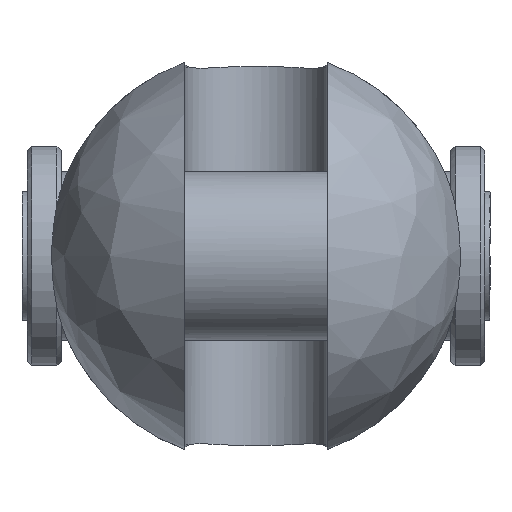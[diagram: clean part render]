
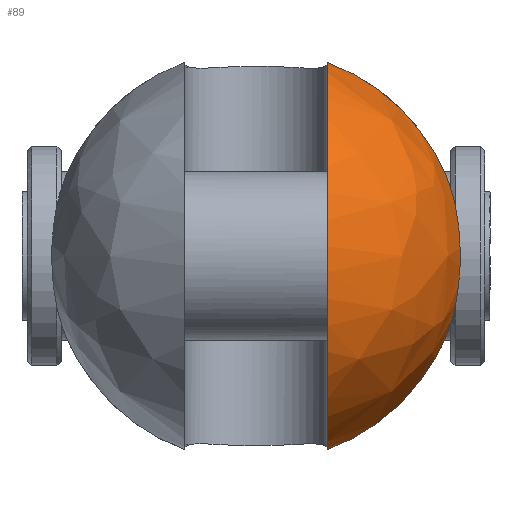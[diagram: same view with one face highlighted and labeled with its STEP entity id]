
A CAD part, left-side view. The second image highlights one B-rep face of the part: STEP entity #89.
In plain terms, the highlighted free-form (B-spline) face has degree [2, 2] with [9, 5] control points.
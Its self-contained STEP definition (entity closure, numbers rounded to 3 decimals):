
#89=ADVANCED_FACE('',(#164),#1306,.T.);
#164=FACE_OUTER_BOUND('',#249,.T.);
#249=EDGE_LOOP('',(#583,#584,#585,#586));
#583=ORIENTED_EDGE('',*,*,#811,.T.);
#584=ORIENTED_EDGE('',*,*,#832,.F.);
#585=ORIENTED_EDGE('',*,*,#841,.T.);
#586=ORIENTED_EDGE('',*,*,#827,.F.);
#811=EDGE_CURVE('',#1192,#1191,#1045,.T.);
#827=EDGE_CURVE('',#1192,#1204,#1055,.T.);
#832=EDGE_CURVE('',#1211,#1191,#1056,.T.);
#841=EDGE_CURVE('',#1211,#1204,#957,.T.);
#957=B_SPLINE_CURVE_WITH_KNOTS('',3,(#3028,#3029,#3030,#3031,#3032,#3033,
#3034,#3035,#3036,#3037,#3038,#3039,#3040,#3041),.UNSPECIFIED.,.F.,.F.,
(4,2,2,2,2,2,4),(0.,3.032,6.669,10.306,
13.942,17.579,20.611),.UNSPECIFIED.);
#1045=(
BOUNDED_CURVE()
B_SPLINE_CURVE(2,(#2912,#2913,#2914,#2915,#2916),.UNSPECIFIED.,.F.,.F.)
B_SPLINE_CURVE_WITH_KNOTS((3,2,3),(-72.188,-36.094,
0.),.UNSPECIFIED.)
CURVE()
GEOMETRIC_REPRESENTATION_ITEM()
RATIONAL_B_SPLINE_CURVE((1.,0.707,1.,0.707,1.))
REPRESENTATION_ITEM('')
);
#1055=(
BOUNDED_CURVE()
B_SPLINE_CURVE(2,(#2990,#2991,#2992),.UNSPECIFIED.,.F.,.F.)
B_SPLINE_CURVE_WITH_KNOTS((3,3),(0.,20.308),.UNSPECIFIED.)
CURVE()
GEOMETRIC_REPRESENTATION_ITEM()
RATIONAL_B_SPLINE_CURVE((1.,0.915,1.))
REPRESENTATION_ITEM('')
);
#1056=(
BOUNDED_CURVE()
B_SPLINE_CURVE(2,(#3001,#3002,#3003),.UNSPECIFIED.,.F.,.F.)
B_SPLINE_CURVE_WITH_KNOTS((3,3),(0.,20.308),.UNSPECIFIED.)
CURVE()
GEOMETRIC_REPRESENTATION_ITEM()
RATIONAL_B_SPLINE_CURVE((1.,0.915,1.))
REPRESENTATION_ITEM('')
);
#1191=VERTEX_POINT('',#2837);
#1192=VERTEX_POINT('',#2838);
#1204=VERTEX_POINT('',#2850);
#1211=VERTEX_POINT('',#2857);
#1306=(
BOUNDED_SURFACE()
B_SPLINE_SURFACE(2,2,((#2445,#2446,#2447,#2448,#2449),(#2450,#2451,#2452,
#2453,#2454),(#2455,#2456,#2457,#2458,#2459),(#2460,#2461,#2462,#2463,#2464),
(#2465,#2466,#2467,#2468,#2469),(#2470,#2471,#2472,#2473,#2474),(#2475,
#2476,#2477,#2478,#2479),(#2480,#2481,#2482,#2483,#2484),(#2485,#2486,#2487,
#2488,#2489)),.UNSPECIFIED.,.T.,.F.,.F.)
B_SPLINE_SURFACE_WITH_KNOTS((3,2,2,2,3),(3,2,3),(0.,38.485,76.969,
115.454,153.938),(0.,38.485,76.969),
 .UNSPECIFIED.)
GEOMETRIC_REPRESENTATION_ITEM()
RATIONAL_B_SPLINE_SURFACE(((1.,0.707,1.,0.707,1.),
(0.707,0.5,0.707,0.5,0.707),(1.,0.707,
1.,0.707,1.),(0.707,0.5,0.707,0.5,0.707),
(1.,0.707,1.,0.707,1.),(0.707,0.5,0.707,
0.5,0.707),(1.,0.707,1.,0.707,1.),(0.707,
0.5,0.707,0.5,0.707),(1.,0.707,1.,0.707,
1.)))
REPRESENTATION_ITEM('')
SURFACE()
);
#2445=CARTESIAN_POINT('',(-35.,0.,0.));
#2446=CARTESIAN_POINT('',(-35.,24.5,0.));
#2447=CARTESIAN_POINT('',(-10.5,24.5,0.));
#2448=CARTESIAN_POINT('',(14.,24.5,0.));
#2449=CARTESIAN_POINT('',(14.,0.,0.));
#2450=CARTESIAN_POINT('',(-35.,0.,0.));
#2451=CARTESIAN_POINT('',(-35.,24.5,24.5));
#2452=CARTESIAN_POINT('',(-10.5,24.5,24.5));
#2453=CARTESIAN_POINT('',(14.,24.5,24.5));
#2454=CARTESIAN_POINT('',(14.,0.,0.));
#2455=CARTESIAN_POINT('',(-35.,0.,0.));
#2456=CARTESIAN_POINT('',(-35.,0.,24.5));
#2457=CARTESIAN_POINT('',(-10.5,0.,24.5));
#2458=CARTESIAN_POINT('',(14.,0.,24.5));
#2459=CARTESIAN_POINT('',(14.,0.,0.));
#2460=CARTESIAN_POINT('',(-35.,0.,0.));
#2461=CARTESIAN_POINT('',(-35.,-24.5,24.5));
#2462=CARTESIAN_POINT('',(-10.5,-24.5,24.5));
#2463=CARTESIAN_POINT('',(14.,-24.5,24.5));
#2464=CARTESIAN_POINT('',(14.,0.,0.));
#2465=CARTESIAN_POINT('',(-35.,0.,0.));
#2466=CARTESIAN_POINT('',(-35.,-24.5,0.));
#2467=CARTESIAN_POINT('',(-10.5,-24.5,0.));
#2468=CARTESIAN_POINT('',(14.,-24.5,0.));
#2469=CARTESIAN_POINT('',(14.,0.,0.));
#2470=CARTESIAN_POINT('',(-35.,0.,0.));
#2471=CARTESIAN_POINT('',(-35.,-24.5,-24.5));
#2472=CARTESIAN_POINT('',(-10.5,-24.5,-24.5));
#2473=CARTESIAN_POINT('',(14.,-24.5,-24.5));
#2474=CARTESIAN_POINT('',(14.,0.,0.));
#2475=CARTESIAN_POINT('',(-35.,0.,0.));
#2476=CARTESIAN_POINT('',(-35.,0.,-24.5));
#2477=CARTESIAN_POINT('',(-10.5,0.,-24.5));
#2478=CARTESIAN_POINT('',(14.,0.,-24.5));
#2479=CARTESIAN_POINT('',(14.,0.,0.));
#2480=CARTESIAN_POINT('',(-35.,0.,0.));
#2481=CARTESIAN_POINT('',(-35.,24.5,-24.5));
#2482=CARTESIAN_POINT('',(-10.5,24.5,-24.5));
#2483=CARTESIAN_POINT('',(14.,24.5,-24.5));
#2484=CARTESIAN_POINT('',(14.,0.,0.));
#2485=CARTESIAN_POINT('',(-35.,0.,0.));
#2486=CARTESIAN_POINT('',(-35.,24.5,0.));
#2487=CARTESIAN_POINT('',(-10.5,24.5,0.));
#2488=CARTESIAN_POINT('',(14.,24.5,0.));
#2489=CARTESIAN_POINT('',(14.,0.,0.));
#2837=CARTESIAN_POINT('',(-10.5,-8.5,-22.978));
#2838=CARTESIAN_POINT('',(-10.5,-8.5,22.978));
#2850=CARTESIAN_POINT('',(-10.5,-22.683,9.26));
#2857=CARTESIAN_POINT('',(-10.5,-22.683,-9.26));
#2912=CARTESIAN_POINT('',(-10.5,-8.5,22.978));
#2913=CARTESIAN_POINT('',(-33.478,-8.5,22.978));
#2914=CARTESIAN_POINT('',(-33.478,-8.5,0.));
#2915=CARTESIAN_POINT('',(-33.478,-8.5,-22.978));
#2916=CARTESIAN_POINT('',(-10.5,-8.5,-22.978));
#2990=CARTESIAN_POINT('',(-10.5,-8.5,22.978));
#2991=CARTESIAN_POINT('',(-10.5,-18.609,19.239));
#2992=CARTESIAN_POINT('',(-10.5,-22.683,9.26));
#3001=CARTESIAN_POINT('',(-10.5,-22.683,-9.26));
#3002=CARTESIAN_POINT('',(-10.5,-18.609,-19.239));
#3003=CARTESIAN_POINT('',(-10.5,-8.5,-22.978));
#3028=CARTESIAN_POINT('',(-10.5,-22.683,-9.26));
#3029=CARTESIAN_POINT('',(-11.153,-22.985,-8.52));
#3030=CARTESIAN_POINT('',(-11.723,-23.243,-7.71));
#3031=CARTESIAN_POINT('',(-12.736,-23.697,-5.92));
#3032=CARTESIAN_POINT('',(-13.217,-23.908,-4.778));
#3033=CARTESIAN_POINT('',(-13.849,-24.184,-2.393));
#3034=CARTESIAN_POINT('',(-14.,-24.249,-1.149));
#3035=CARTESIAN_POINT('',(-14.,-24.249,1.149));
#3036=CARTESIAN_POINT('',(-13.849,-24.184,2.393));
#3037=CARTESIAN_POINT('',(-13.217,-23.908,4.778));
#3038=CARTESIAN_POINT('',(-12.736,-23.697,5.92));
#3039=CARTESIAN_POINT('',(-11.723,-23.243,7.71));
#3040=CARTESIAN_POINT('',(-11.153,-22.985,8.52));
#3041=CARTESIAN_POINT('',(-10.5,-22.683,9.26));
